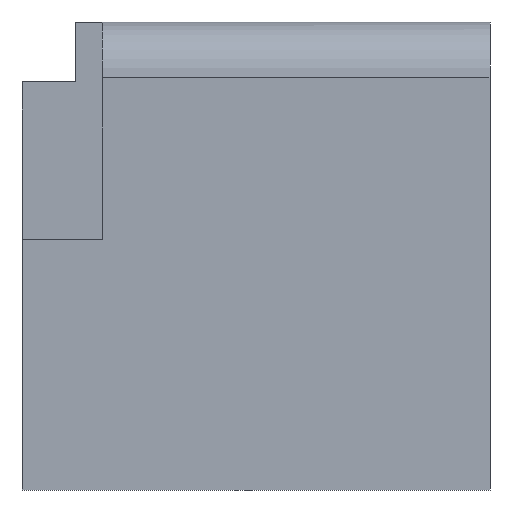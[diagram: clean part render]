
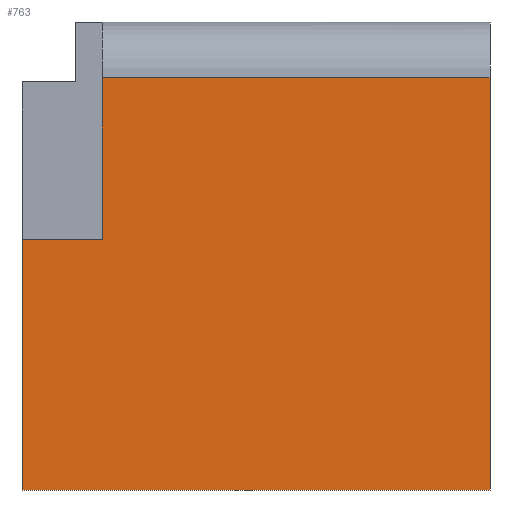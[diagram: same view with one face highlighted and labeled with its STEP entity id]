
A CAD part, front view. The second image highlights one B-rep face of the part: STEP entity #763.
In plain terms, the highlighted planar face has unit normal (0, -1, 0).
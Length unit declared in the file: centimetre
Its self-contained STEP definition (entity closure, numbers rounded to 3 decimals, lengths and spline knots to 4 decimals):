
#33 = DIRECTION ( 'NONE',  ( 1., 0., 0. ) ) ;
#39 = VERTEX_POINT ( 'NONE', #154 ) ;
#42 = DIRECTION ( 'NONE',  ( -1., 0., 0. ) ) ;
#59 = ORIENTED_EDGE ( 'NONE', *, *, #410, .T. ) ;
#90 = VECTOR ( 'NONE', #528, 100. ) ;
#121 = VERTEX_POINT ( 'NONE', #238 ) ;
#128 = CARTESIAN_POINT ( 'NONE',  ( 0., 0., 1000. ) ) ;
#140 = EDGE_CURVE ( 'NONE', #121, #950, #161, .T. ) ;
#145 = CARTESIAN_POINT ( 'NONE',  ( 171.0308, 0., 535.3703 ) ) ;
#154 = CARTESIAN_POINT ( 'NONE',  ( 0., 0., 535.3703 ) ) ;
#161 = LINE ( 'NONE', #482, #623 ) ;
#164 = VERTEX_POINT ( 'NONE', #958 ) ;
#179 = LINE ( 'NONE', #506, #733 ) ;
#187 = CARTESIAN_POINT ( 'NONE',  ( 1000., 0., 0. ) ) ;
#191 = LINE ( 'NONE', #747, #90 ) ;
#238 = CARTESIAN_POINT ( 'NONE',  ( 1000., 0., 880.7704 ) ) ;
#255 = VECTOR ( 'NONE', #42, 100. ) ;
#288 = ORIENTED_EDGE ( 'NONE', *, *, #317, .F. ) ;
#317 = EDGE_CURVE ( 'NONE', #704, #842, #191, .T. ) ;
#321 = DIRECTION ( 'NONE',  ( 0., 1., 0. ) ) ;
#338 = EDGE_CURVE ( 'NONE', #39, #704, #899, .T. ) ;
#344 = VECTOR ( 'NONE', #870, 100. ) ;
#384 = DIRECTION ( 'NONE',  ( 0., 0., 1. ) ) ;
#410 = EDGE_CURVE ( 'NONE', #164, #950, #179, .T. ) ;
#469 = EDGE_CURVE ( 'NONE', #121, #842, #691, .T. ) ;
#482 = CARTESIAN_POINT ( 'NONE',  ( 1000., 0., 1000. ) ) ;
#506 = CARTESIAN_POINT ( 'NONE',  ( 0., 0., 0. ) ) ;
#509 = ORIENTED_EDGE ( 'NONE', *, *, #777, .T. ) ;
#528 = DIRECTION ( 'NONE',  ( 0., 0., 1. ) ) ;
#554 = LINE ( 'NONE', #770, #344 ) ;
#565 = EDGE_LOOP ( 'NONE', ( #719, #288, #892, #509, #59, #1007 ) ) ;
#623 = VECTOR ( 'NONE', #954, 100. ) ;
#655 = VECTOR ( 'NONE', #33, 100. ) ;
#687 = CARTESIAN_POINT ( 'NONE',  ( 0., 0., 880.7704 ) ) ;
#691 = LINE ( 'NONE', #687, #255 ) ;
#704 = VERTEX_POINT ( 'NONE', #145 ) ;
#719 = ORIENTED_EDGE ( 'NONE', *, *, #469, .T. ) ;
#733 = VECTOR ( 'NONE', #819, 100. ) ;
#747 = CARTESIAN_POINT ( 'NONE',  ( 171.0308, 0., 535.3703 ) ) ;
#759 = CARTESIAN_POINT ( 'NONE',  ( 0., 0., 535.3703 ) ) ;
#763 = ADVANCED_FACE ( 'NONE', ( #944 ), #1015, .F. ) ;
#770 = CARTESIAN_POINT ( 'NONE',  ( 0., 0., 1000. ) ) ;
#777 = EDGE_CURVE ( 'NONE', #39, #164, #554, .T. ) ;
#795 = CARTESIAN_POINT ( 'NONE',  ( 171.0308, 0., 880.7704 ) ) ;
#819 = DIRECTION ( 'NONE',  ( 1., 0., 0. ) ) ;
#842 = VERTEX_POINT ( 'NONE', #795 ) ;
#870 = DIRECTION ( 'NONE',  ( 0., 0., -1. ) ) ;
#892 = ORIENTED_EDGE ( 'NONE', *, *, #338, .F. ) ;
#899 = LINE ( 'NONE', #759, #655 ) ;
#944 = FACE_OUTER_BOUND ( 'NONE', #565, .T. ) ;
#950 = VERTEX_POINT ( 'NONE', #187 ) ;
#954 = DIRECTION ( 'NONE',  ( 0., 0., -1. ) ) ;
#958 = CARTESIAN_POINT ( 'NONE',  ( 0., 0., 0. ) ) ;
#982 = AXIS2_PLACEMENT_3D ( 'NONE', #128, #321, #384 ) ;
#1007 = ORIENTED_EDGE ( 'NONE', *, *, #140, .F. ) ;
#1015 = PLANE ( 'NONE',  #982 ) ;
